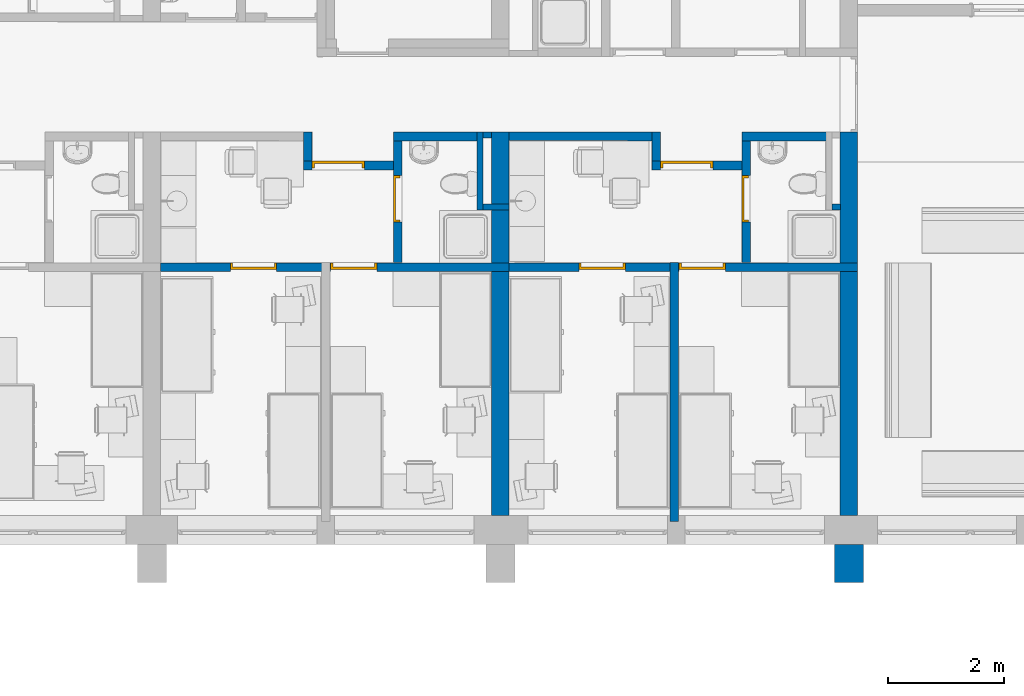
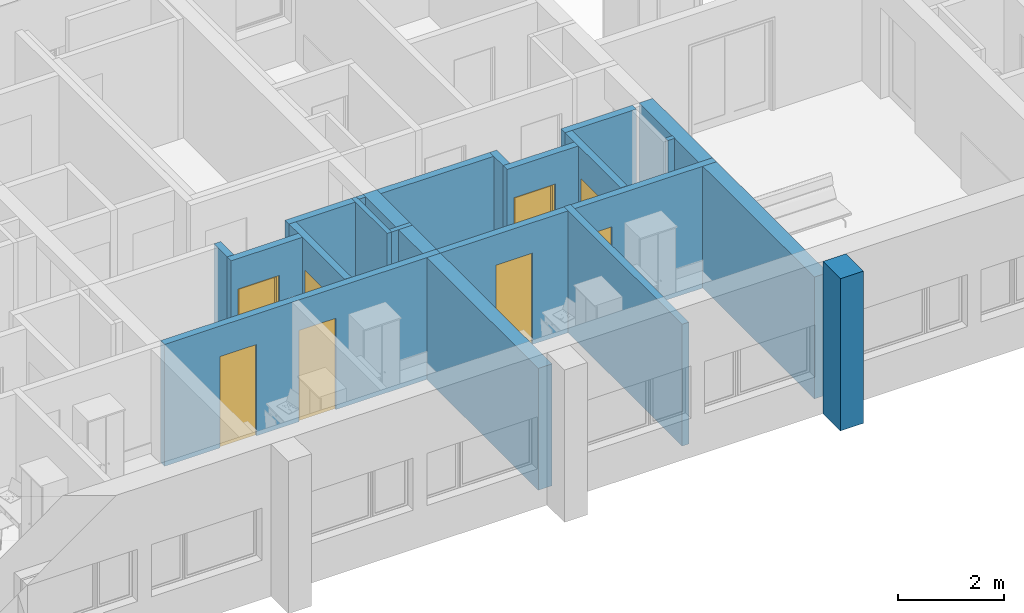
# One storey, part 12 of 152: 19 walls, 8 doors, 8 openings.
"""IFC2X3 building model written with IfcOpenShell, lengths in millimetres."""

from ifc_helpers import new_model, entity, si_unit, converted_unit, money_unit, direction, frame, origin_with_axes, place, context, subcontext, project, spatial, polyline, outline, extrude, faceted_brep, source, transform, mapped, material, material_list, layer, layer_set, layer_usage, type_object, element, fill, save


model = new_model("IFC2X3")

# Units and contexts
model_context = context("Model", 3, precision=1e-05, world=origin_with_axes(), true_north=direction((0.0, 1.0)))
body_context = subcontext(model_context, "Body", "Model", "MODEL_VIEW")
ifc_project = project(units=[si_unit("LENGTHUNIT", "METRE", prefix="MILLI"), si_unit("AREAUNIT", "SQUARE_METRE"), si_unit("VOLUMEUNIT", "CUBIC_METRE"), converted_unit("PLANEANGLEUNIT", "DEGREE", entity("IfcPlaneAngleMeasure", 0.0174532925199), si_unit("PLANEANGLEUNIT", "RADIAN"), dimensions=[0, 0, 0, 0, 0, 0, 0]), si_unit("SOLIDANGLEUNIT", "STERADIAN"), money_unit("USD"), converted_unit("TIMEUNIT", "Year", entity("IfcTimeMeasure", 31556926.0), si_unit("TIMEUNIT", "SECOND"), dimensions=[0, 0, 0, 0, 0, 0, 0]), si_unit("MASSUNIT", "GRAM"), si_unit("THERMODYNAMICTEMPERATUREUNIT", "DEGREE_CELSIUS"), si_unit("LUMINOUSINTENSITYUNIT", "LUMEN")], contexts=[model_context])

# Site, building, storey
site_placement = place(None, origin_with_axes())
site = spatial("IfcSite", under=ifc_project, at=site_placement, Name="Site", CompositionType="ELEMENT")
building_placement = place(site_placement, origin_with_axes())
building = spatial("IfcBuilding", under=site, at=building_placement, Name="Building", CompositionType="ELEMENT")
storey_placement = place(building_placement, frame((0.0, 0.0, 9500.0), z_axis=(0.0, 0.0, 1.0), x_axis=(1.0, 0.0, 0.0)))
storey = spatial("IfcBuildingStorey", under=building, at=storey_placement, Name="5KORRUS", CompositionType="ELEMENT", Elevation=9500.0)

# Walls
ifc_material_1 = material(Name="Olemasolevad seinad tellis, uus viimistlus")
ifc_layer_1 = layer(ifc_material_1, 500.0, ventilated="UNKNOWN")
ifc_layer_set_1 = layer_set([ifc_layer_1], Name="Olemasolevad seinad tellis, uus viimistlus 500")
ifc_layer_usage_1 = layer_usage(ifc_layer_set_1, "AXIS2", "POSITIVE", -100.0)
wall_type_1 = type_object("IfcWallType", Name="Olemasolevad seinad tellis, uus viimistlus 500", PredefinedType="NOTDEFINED")
wall_1_placement = place(storey_placement, frame((-11990.2967033, -20796.6419407, 0.0), z_axis=(0.0, 0.0, 1.0), x_axis=(0.0, 1.0, 0.0)))
element("IfcWallStandardCase", 1, at=wall_1_placement, inside=storey, type_object=wall_type_1, material=ifc_layer_usage_1, Name="VS1", ObjectType="VS1", context=body_context, shape_type="SweptSolid", body=[
    extrude(outline(polyline([(0.0, -100.0), (657.402041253, -100.0), (657.402041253, 400.0), (0.0, 400.0), (0.0, -100.0)])), origin_with_axes(), (0.0, 0.0, 1.0), 3500.0),
])
ifc_material_2 = material(Name="UmbKipsplaat")
ifc_layer_2 = layer(ifc_material_2, 13.0, ventilated="UNKNOWN")
ifc_layer_3 = layer(ifc_material_2, 13.0, ventilated="UNKNOWN")
ifc_material_3 = material(Name="SOOJUSTUS MINERAALVILL")
ifc_layer_4 = layer(ifc_material_3, 98.0, ventilated="UNKNOWN")
ifc_layer_5 = layer(ifc_material_2, 13.0, ventilated="UNKNOWN")
ifc_layer_6 = layer(ifc_material_2, 13.0, ventilated="UNKNOWN")
ifc_layer_set_2 = layer_set([ifc_layer_2, ifc_layer_3, ifc_layer_4, ifc_layer_5, ifc_layer_6], Name="kipssein150")
ifc_layer_usage_2 = layer_usage(ifc_layer_set_2, "AXIS2", "POSITIVE", -150.0)
wall_type_2 = type_object("IfcWallType", Name="kipssein150 150", PredefinedType="NOTDEFINED")
wall_2_placement = place(storey_placement, frame((-13984.201689, -13039.3705726, 0.0), z_axis=(0.0, 0.0, 1.0), x_axis=(1.0, 0.0, 0.0)))
element("IfcWallStandardCase", 2, at=wall_2_placement, inside=storey, type_object=wall_type_2, material=ifc_layer_usage_2, Name="SS1", ObjectType="SS1", context=body_context, shape_type="SweptSolid", body=[
    extrude(outline(polyline([(0.0, -150.0), (1550.19338105, -150.0), (1550.19338105, 0.0), (0.0, 0.0), (0.0, -150.0)])), origin_with_axes(), (0.0, 0.0, 1.0), 2800.0),
])

# Wall, opening, door
ifc_layer_usage_3 = layer_usage(ifc_layer_set_2, "AXIS2", "POSITIVE", 0.0)
wall_3_placement = place(storey_placement, frame((-13984.201689, -13539.4524083, 0.0), z_axis=(0.0, 0.0, 1.0), x_axis=(-1.0, 0.0, 0.0)))
wall_3 = element("IfcWallStandardCase", 3, at=wall_3_placement, inside=storey, type_object=wall_type_2, material=ifc_layer_usage_3, Name="SS1", ObjectType="SS1", context=body_context, shape_type="SweptSolid", body=[
    extrude(outline(polyline([(0.0, 0.0), (1549.66067938, 0.0), (1549.66067938, 150.0), (0.0, 150.0), (0.0, 0.0)])), origin_with_axes(), (0.0, 0.0, 1.0), 2800.0),
])
opening_1_placement = place(wall_3_placement, frame((949.660679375, 0.0, 0.0), z_axis=(0.0, 0.0, 1.0), x_axis=(1.0, 0.0, 0.0)))
opening_1 = element("IfcOpeningElement", 4, at=opening_1_placement, cuts=wall_3, Name="SU2-6", context=body_context, shape_type="SweptSolid", body=[
    extrude(outline(polyline([(-450.0, -2100.0), (450.0, -2100.0), (450.0, 0.0), (-450.0, 0.0), (-450.0, -2100.0)])), frame((0.0, 150.0, 0.0), z_axis=(0.0, 1.0, 0.0), x_axis=(1.0, 0.0, 0.0)), (0.0, 0.0, -1.0), 450.0),
])
ifc_material_4 = material(Name="Background")
ifc_material_list = material_list([ifc_material_4])
door_style_1 = type_object("IfcDoorStyle", Name="Door 19", ConstructionType="NOTDEFINED", OperationType="SINGLE_SWING_LEFT", ParameterTakesPrecedence=False, Sizeable=False)
shared_shape_1 = source(origin_with_axes(), body_context, "Body", "Brep", [
    faceted_brep([(410.0, -40.0, 0.0), (410.0, -115.0, 0.0), (410.0, -115.0, 2060.0), (410.0, -40.0, 2060.0), (422.0, -40.0, 0.0), (422.0, 0.0, 0.0), (450.0, 0.0, 0.0), (450.0, -115.0, 0.0), (450.0, -115.0, 2060.0), (422.0, -40.0, 2060.0), (450.0, 0.0, 2060.0), (422.0, 0.0, 2060.0)], [[[0, 1, 2, 3]], [[4, 5, 6, 7, 1, 0]], [[2, 1, 7, 8]], [[9, 3, 2, 8, 10, 11]], [[9, 4, 0, 3]], [[11, 5, 4, 9]], [[11, 10, 6, 5]], [[7, 6, 10, 8]]]),
    faceted_brep([(-422.0, -40.0, 2060.0), (-422.0, 0.0, 2060.0), (-450.0, 0.0, 2060.0), (-450.0, -115.0, 2060.0), (-410.0, -115.0, 2060.0), (-410.0, -40.0, 2060.0), (-422.0, -40.0, 0.0), (-422.0, 0.0, 0.0), (-450.0, 0.0, 0.0), (-450.0, -115.0, 0.0), (-410.0, -115.0, 0.0), (-410.0, -40.0, 0.0)], [[[0, 1, 2, 3, 4, 5]], [[0, 6, 7, 1]], [[7, 8, 2, 1]], [[3, 2, 8, 9]], [[4, 3, 9, 10]], [[5, 4, 10, 11]], [[5, 11, 6, 0]], [[6, 11, 10, 9, 8, 7]]]),
    faceted_brep([(422.0, 0.0, 2072.0), (-422.0, 0.0, 2072.0), (-422.0, 0.0, 2060.0), (-450.0, 0.0, 2060.0), (-450.0, 0.0, 2100.0), (450.0, 0.0, 2100.0), (450.0, 0.0, 2060.0), (422.0, 0.0, 2060.0), (422.0, -40.0, 2072.0), (-422.0, -40.0, 2072.0), (-422.0, -40.0, 2060.0), (-410.0, -40.0, 2060.0), (-410.0, -115.0, 2060.0), (-450.0, -115.0, 2060.0), (-450.0, -115.0, 2100.0), (450.0, -115.0, 2100.0), (450.0, -115.0, 2060.0), (422.0, -40.0, 2060.0), (410.0, -115.0, 2060.0), (410.0, -40.0, 2060.0)], [[[0, 1, 2, 3, 4, 5, 6, 7]], [[0, 8, 9, 1]], [[1, 9, 10, 2]], [[10, 11, 12, 13, 3, 2]], [[14, 4, 3, 13]], [[15, 5, 4, 14]], [[16, 6, 5, 15]], [[17, 7, 6, 16, 18, 19]], [[7, 17, 8, 0]], [[10, 9, 8, 17, 19, 11]], [[19, 18, 12, 11]], [[13, 12, 18, 16, 15, 14]]]),
    faceted_brep([(-422.0, 0.0, 0.0), (422.0, 0.0, 0.0), (422.0, -40.0, 0.0), (-422.0, -40.0, 0.0), (-422.0, 0.0, 2072.0), (422.0, 0.0, 2072.0), (422.0, -40.0, 2072.0), (-422.0, -40.0, 2072.0)], [[[0, 1, 2, 3]], [[0, 4, 5, 1]], [[1, 5, 6, 2]], [[3, 2, 6, 7]], [[4, 0, 3, 7]], [[5, 4, 7, 6]]]),
])
door_1_placement = place(opening_1_placement, frame((450.0, 0.0, 0.0), z_axis=(0.0, 0.0, 1.0), x_axis=(-1.0, 0.0, 0.0)))
door_1 = element("IfcDoor", 5, at=door_1_placement, inside=storey, type_object=door_style_1, material=ifc_material_list, Name="SU2-6", ObjectType="Korteri välisuks", OverallHeight=2100.0, OverallWidth=900.0, context=body_context, shape_type="MappedRepresentation", body=[
    mapped(shared_shape_1, transform((450.0, 0.0, 0.0))),
])
fill(opening_1, door_1)

ifc_layer_usage_4 = layer_usage(ifc_layer_set_2, "AXIS2", "POSITIVE", -150.0)
wall_4_placement = place(storey_placement, frame((-13984.201689, -15280.4716262, 0.0), z_axis=(0.0, 0.0, 1.0), x_axis=(0.0, 1.0, 0.0)))
wall_4 = element("IfcWallStandardCase", 6, at=wall_4_placement, inside=storey, type_object=wall_type_2, material=ifc_layer_usage_4, Name="SS1", ObjectType="SS1", context=body_context, shape_type="SweptSolid", body=[
    extrude(outline(polyline([(0.0, -150.0), (2241.10105359, -150.0), (2241.10105359, 0.0), (0.0, 0.0), (0.0, -150.0)])), origin_with_axes(), (0.0, 0.0, 1.0), 2800.0),
])
opening_2_placement = place(wall_4_placement, frame((1091.01921788, 0.0, 0.0), z_axis=(0.0, 0.0, 1.0), x_axis=(1.0, 0.0, 0.0)))
opening_2 = element("IfcOpeningElement", 7, at=opening_2_placement, cuts=wall_4, Name="SU3-2", context=body_context, shape_type="SweptSolid", body=[
    extrude(outline(polyline([(-400.0, -2100.0), (400.0, -2100.0), (400.0, 0.0), (-400.0, 0.0), (-400.0, -2100.0)])), frame((0.0, -150.0, 0.0), z_axis=(0.0, 1.0, 0.0), x_axis=(1.0, 0.0, 0.0)), (0.0, 0.0, 1.0), 450.0),
])
door_style_2 = type_object("IfcDoorStyle", Name="Door 19", ConstructionType="NOTDEFINED", OperationType="SINGLE_SWING_RIGHT", ParameterTakesPrecedence=False, Sizeable=False)
shared_shape_2 = source(origin_with_axes(), body_context, "Body", "Brep", [
    faceted_brep([(-360.0, -40.0, 0.0), (-360.0, -40.0, 2060.0), (-360.0, -115.0, 2060.0), (-360.0, -115.0, 0.0), (-372.0, -40.0, 2060.0), (-372.0, -40.0, 0.0), (-372.0, 0.0, 2060.0), (-400.0, 0.0, 2060.0), (-400.0, -115.0, 2060.0), (-400.0, -115.0, 0.0), (-400.0, 0.0, 0.0), (-372.0, 0.0, 0.0)], [[[0, 1, 2, 3]], [[4, 1, 0, 5]], [[4, 6, 7, 8, 2, 1]], [[2, 8, 9, 3]], [[5, 0, 3, 9, 10, 11]], [[6, 4, 5, 11]], [[6, 11, 10, 7]], [[9, 8, 7, 10]]]),
    faceted_brep([(372.0, -40.0, 2060.0), (360.0, -40.0, 2060.0), (360.0, -115.0, 2060.0), (400.0, -115.0, 2060.0), (400.0, 0.0, 2060.0), (372.0, 0.0, 2060.0), (372.0, -40.0, 0.0), (360.0, -40.0, 0.0), (360.0, -115.0, 0.0), (400.0, -115.0, 0.0), (400.0, 0.0, 0.0), (372.0, 0.0, 0.0)], [[[0, 1, 2, 3, 4, 5]], [[1, 0, 6, 7]], [[1, 7, 8, 2]], [[2, 8, 9, 3]], [[3, 9, 10, 4]], [[11, 5, 4, 10]], [[0, 5, 11, 6]], [[6, 11, 10, 9, 8, 7]]]),
    faceted_brep([(-372.0, 0.0, 2072.0), (-372.0, 0.0, 2060.0), (-400.0, 0.0, 2060.0), (-400.0, 0.0, 2100.0), (400.0, 0.0, 2100.0), (400.0, 0.0, 2060.0), (372.0, 0.0, 2060.0), (372.0, 0.0, 2072.0), (-372.0, -40.0, 2072.0), (-372.0, -40.0, 2060.0), (-360.0, -40.0, 2060.0), (-360.0, -115.0, 2060.0), (-400.0, -115.0, 2060.0), (-400.0, -115.0, 2100.0), (400.0, -115.0, 2100.0), (400.0, -115.0, 2060.0), (372.0, -40.0, 2060.0), (360.0, -115.0, 2060.0), (360.0, -40.0, 2060.0), (372.0, -40.0, 2072.0)], [[[0, 1, 2, 3, 4, 5, 6, 7]], [[1, 0, 8, 9]], [[9, 10, 11, 12, 2, 1]], [[12, 13, 3, 2]], [[13, 14, 4, 3]], [[14, 15, 5, 4]], [[16, 6, 5, 15, 17, 18]], [[7, 6, 16, 19]], [[0, 7, 19, 8]], [[16, 18, 10, 9, 8, 19]], [[10, 18, 17, 11]], [[15, 14, 13, 12, 11, 17]]]),
    faceted_brep([(372.0, 0.0, 0.0), (372.0, -40.0, 0.0), (-372.0, -40.0, 0.0), (-372.0, 0.0, 0.0), (372.0, 0.0, 2072.0), (372.0, -40.0, 2072.0), (-372.0, -40.0, 2072.0), (-372.0, 0.0, 2072.0)], [[[0, 1, 2, 3]], [[4, 5, 1, 0]], [[1, 5, 6, 2]], [[3, 2, 6, 7]], [[0, 3, 7, 4]], [[7, 6, 5, 4]]]),
])
door_2_placement = place(opening_2_placement, frame((-400.0, 0.0, 0.0), z_axis=(0.0, 0.0, 1.0), x_axis=(1.0, 0.0, 0.0)))
door_2 = element("IfcDoor", 8, at=door_2_placement, inside=storey, type_object=door_style_2, material=ifc_material_list, Name="SU3-2", ObjectType="WC-uks", OverallHeight=2100.0, OverallWidth=800.0, context=body_context, shape_type="MappedRepresentation", body=[
    mapped(shared_shape_2, transform((400.0, 0.0, 0.0))),
])
fill(opening_2, door_2)

# Walls
ifc_layer_usage_5 = layer_usage(ifc_layer_set_2, "AXIS2", "POSITIVE", 0.0)
wall_5_placement = place(storey_placement, frame((-15533.8623684, -13039.2398994, 0.0), z_axis=(0.0, 0.0, 1.0), x_axis=(-0.999999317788, 0.00116808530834, 0.0)))
element("IfcWallStandardCase", 9, at=wall_5_placement, inside=storey, type_object=wall_type_2, material=ifc_layer_usage_5, Name="SS1", ObjectType="SS1", context=body_context, shape_type="SweptSolid", body=[
    extrude(outline(polyline([(0.0, 0.0), (2456.43601074, 0.0), (2456.43601074, 150.0), (0.0, 150.0), (0.0, 0.0)])), origin_with_axes(), (0.0, 0.0, 1.0), 2800.0),
])
ifc_layer_usage_6 = layer_usage(ifc_layer_set_2, "AXIS2", "POSITIVE", 0.0)
wall_6_placement = place(storey_placement, frame((-15533.8623684, -13039.2398994, 0.0), z_axis=(0.0, 0.0, 1.0), x_axis=(0.0, -1.0, 0.0)))
element("IfcWallStandardCase", 10, at=wall_6_placement, inside=storey, type_object=wall_type_2, material=ifc_layer_usage_6, Name="SS1", ObjectType="SS1", context=body_context, shape_type="SweptSolid", body=[
    extrude(outline(polyline([(0.0, 0.0), (500.212508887, 0.0), (500.212508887, 150.0), (0.0, 150.0), (0.0, 0.0)])), origin_with_axes(), (0.0, 0.0, 1.0), 2800.0),
])
ifc_layer_usage_7 = layer_usage(ifc_layer_set_2, "AXIS2", "POSITIVE", 0.0)
wall_7_placement = place(storey_placement, frame((-15070.2967033, -19739.2398994, 0.0), z_axis=(0.0, 0.0, 1.0), x_axis=(0.0, 1.0, 0.0)))
element("IfcWallStandardCase", 11, at=wall_7_placement, inside=storey, type_object=wall_type_2, material=ifc_layer_usage_7, Name="SS1", ObjectType="SS1", context=body_context, shape_type="SweptSolid", body=[
    extrude(outline(polyline([(0.0, 0.0), (4458.76827323, 0.0), (4458.76827323, 150.0), (0.0, 150.0), (0.0, 0.0)])), origin_with_axes(), (0.0, 0.0, 1.0), 2800.0),
])
ifc_layer_usage_8 = layer_usage(ifc_layer_set_2, "AXIS2", "POSITIVE", -150.0)
wall_8_placement = place(storey_placement, frame((-19984.201689, -13039.3705726, 0.0), z_axis=(0.0, 0.0, 1.0), x_axis=(1.0, 0.0, 0.0)))
element("IfcWallStandardCase", 12, at=wall_8_placement, inside=storey, type_object=wall_type_2, material=ifc_layer_usage_8, Name="SS1", ObjectType="SS1", context=body_context, shape_type="SweptSolid", body=[
    extrude(outline(polyline([(0.0, -150.0), (1451.10685968, -150.0), (1451.10685968, 0.0), (0.0, 0.0), (0.0, -150.0)])), origin_with_axes(), (0.0, 0.0, 1.0), 2800.0),
])
ifc_layer_usage_9 = layer_usage(ifc_layer_set_2, "AXIS2", "POSITIVE", 0.0)
wall_9_placement = place(storey_placement, frame((-21533.8623684, -13039.2398994, 0.0), z_axis=(0.0, 0.0, 1.0), x_axis=(0.0, -1.0, 0.0)))
element("IfcWallStandardCase", 13, at=wall_9_placement, inside=storey, type_object=wall_type_2, material=ifc_layer_usage_9, Name="SS1", ObjectType="SS1", context=body_context, shape_type="SweptSolid", body=[
    extrude(outline(polyline([(0.0, 0.0), (500.212508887, 0.0), (500.212508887, 150.0), (0.0, 150.0), (0.0, 0.0)])), origin_with_axes(), (0.0, 0.0, 1.0), 2800.0),
])

# Wall, openings, doors
ifc_layer_usage_10 = layer_usage(ifc_layer_set_2, "AXIS2", "POSITIVE", -150.0)
wall_10_placement = place(storey_placement, frame((-11990.2967033, -15439.2398994, 0.0), z_axis=(0.0, 0.0, 1.0), x_axis=(-1.0, 0.0, 0.0)))
wall_10 = element("IfcWallStandardCase", 14, at=wall_10_placement, inside=storey, type_object=wall_type_2, material=ifc_layer_usage_10, Name="SS1", ObjectType="SS1", context=body_context, shape_type="SweptSolid", body=[
    extrude(outline(polyline([(0.0, -150.0), (6000.0, -150.0), (6000.0, 0.0), (0.0, 0.0), (0.0, -150.0)])), origin_with_axes(), (0.0, 0.0, 1.0), 2800.0),
])
opening_3_placement = place(wall_10_placement, frame((4400.0, 0.0, 0.0), z_axis=(0.0, 0.0, 1.0), x_axis=(1.0, 0.0, 0.0)))
opening_3 = element("IfcOpeningElement", 15, at=opening_3_placement, cuts=wall_10, Name="SU3-5", context=body_context, shape_type="SweptSolid", body=[
    extrude(outline(polyline([(-400.0, 0.0), (400.0, 0.0), (400.0, 2100.0), (-400.0, 2100.0), (-400.0, 0.0)])), frame((0.0, 150.0, 0.0), z_axis=(0.0, 1.0, 0.0), x_axis=(-1.0, 0.0, 0.0)), (0.0, 0.0, -1.0), 450.0),
])
opening_4_placement = place(wall_10_placement, frame((2675.0, 0.0, 0.0), z_axis=(0.0, 0.0, 1.0), x_axis=(1.0, 0.0, 0.0)))
opening_4 = element("IfcOpeningElement", 16, at=opening_4_placement, cuts=wall_10, Name="SU3-4", context=body_context, shape_type="SweptSolid", body=[
    extrude(outline(polyline([(-400.0, 0.0), (400.0, 0.0), (400.0, 2100.0), (-400.0, 2100.0), (-400.0, 0.0)])), frame((0.0, 150.0, 0.0), z_axis=(0.0, -1.0, 0.0), x_axis=(1.0, 0.0, 0.0)), (0.0, 0.0, 1.0), 450.0),
])
door_style_3 = type_object("IfcDoorStyle", Name="Door 19", ConstructionType="NOTDEFINED", OperationType="SINGLE_SWING_LEFT", ParameterTakesPrecedence=False, Sizeable=False)
shared_shape_3 = source(origin_with_axes(), body_context, "Body", "Brep", [
    faceted_brep([(360.0, -75.0, 0.0), (360.0, -150.0, 0.0), (360.0, -150.0, 2060.0), (360.0, -75.0, 2060.0), (372.0, -75.0, 0.0), (372.0, -35.0, 0.0), (400.0, -35.0, 0.0), (400.0, -150.0, 0.0), (400.0, -150.0, 2060.0), (372.0, -75.0, 2060.0), (400.0, -35.0, 2060.0), (372.0, -35.0, 2060.0)], [[[0, 1, 2, 3]], [[4, 5, 6, 7, 1, 0]], [[2, 1, 7, 8]], [[9, 3, 2, 8, 10, 11]], [[9, 4, 0, 3]], [[11, 5, 4, 9]], [[11, 10, 6, 5]], [[7, 6, 10, 8]]]),
    faceted_brep([(-372.0, -75.0, 2060.0), (-372.0, -35.0, 2060.0), (-400.0, -35.0, 2060.0), (-400.0, -150.0, 2060.0), (-360.0, -150.0, 2060.0), (-360.0, -75.0, 2060.0), (-372.0, -75.0, 0.0), (-372.0, -35.0, 0.0), (-400.0, -35.0, 0.0), (-400.0, -150.0, 0.0), (-360.0, -150.0, 0.0), (-360.0, -75.0, 0.0)], [[[0, 1, 2, 3, 4, 5]], [[0, 6, 7, 1]], [[7, 8, 2, 1]], [[3, 2, 8, 9]], [[4, 3, 9, 10]], [[5, 4, 10, 11]], [[5, 11, 6, 0]], [[6, 11, 10, 9, 8, 7]]]),
    faceted_brep([(372.0, -35.0, 2072.0), (-372.0, -35.0, 2072.0), (-372.0, -35.0, 2060.0), (-400.0, -35.0, 2060.0), (-400.0, -35.0, 2100.0), (400.0, -35.0, 2100.0), (400.0, -35.0, 2060.0), (372.0, -35.0, 2060.0), (372.0, -75.0, 2072.0), (-372.0, -75.0, 2072.0), (-372.0, -75.0, 2060.0), (-360.0, -75.0, 2060.0), (-360.0, -150.0, 2060.0), (-400.0, -150.0, 2060.0), (-400.0, -150.0, 2100.0), (400.0, -150.0, 2100.0), (400.0, -150.0, 2060.0), (372.0, -75.0, 2060.0), (360.0, -150.0, 2060.0), (360.0, -75.0, 2060.0)], [[[0, 1, 2, 3, 4, 5, 6, 7]], [[0, 8, 9, 1]], [[1, 9, 10, 2]], [[10, 11, 12, 13, 3, 2]], [[14, 4, 3, 13]], [[15, 5, 4, 14]], [[16, 6, 5, 15]], [[17, 7, 6, 16, 18, 19]], [[7, 17, 8, 0]], [[10, 9, 8, 17, 19, 11]], [[19, 18, 12, 11]], [[13, 12, 18, 16, 15, 14]]]),
    faceted_brep([(-372.0, -35.0, 0.0), (372.0, -35.0, 0.0), (372.0, -75.0, 0.0), (-372.0, -75.0, 0.0), (-372.0, -35.0, 2072.0), (372.0, -35.0, 2072.0), (372.0, -75.0, 2072.0), (-372.0, -75.0, 2072.0)], [[[0, 1, 2, 3]], [[0, 4, 5, 1]], [[1, 5, 6, 2]], [[3, 2, 6, 7]], [[4, 0, 3, 7]], [[5, 4, 7, 6]]]),
])
door_3_placement = place(opening_3_placement, frame((-400.0, 0.0, 0.0), z_axis=(0.0, 0.0, 1.0), x_axis=(1.0, 0.0, 0.0)))
door_3 = element("IfcDoor", 17, at=door_3_placement, inside=storey, type_object=door_style_3, material=ifc_material_list, Name="SU3-5", ObjectType="Toa uks", OverallHeight=2100.0, OverallWidth=800.0, context=body_context, shape_type="MappedRepresentation", body=[
    mapped(shared_shape_3, transform((400.0, 0.0, 0.0))),
])
fill(opening_3, door_3)
door_style_4 = type_object("IfcDoorStyle", Name="Door 19", ConstructionType="NOTDEFINED", OperationType="SINGLE_SWING_RIGHT", ParameterTakesPrecedence=False, Sizeable=False)
shared_shape_4 = source(origin_with_axes(), body_context, "Body", "Brep", [
    faceted_brep([(-360.0, -75.0, 0.0), (-360.0, -75.0, 2060.0), (-360.0, -150.0, 2060.0), (-360.0, -150.0, 0.0), (-372.0, -75.0, 2060.0), (-372.0, -75.0, 0.0), (-372.0, -35.0, 2060.0), (-400.0, -35.0, 2060.0), (-400.0, -150.0, 2060.0), (-400.0, -150.0, 0.0), (-400.0, -35.0, 0.0), (-372.0, -35.0, 0.0)], [[[0, 1, 2, 3]], [[4, 1, 0, 5]], [[4, 6, 7, 8, 2, 1]], [[2, 8, 9, 3]], [[5, 0, 3, 9, 10, 11]], [[6, 4, 5, 11]], [[6, 11, 10, 7]], [[9, 8, 7, 10]]]),
    faceted_brep([(372.0, -75.0, 2060.0), (360.0, -75.0, 2060.0), (360.0, -150.0, 2060.0), (400.0, -150.0, 2060.0), (400.0, -35.0, 2060.0), (372.0, -35.0, 2060.0), (372.0, -75.0, 0.0), (360.0, -75.0, 0.0), (360.0, -150.0, 0.0), (400.0, -150.0, 0.0), (400.0, -35.0, 0.0), (372.0, -35.0, 0.0)], [[[0, 1, 2, 3, 4, 5]], [[1, 0, 6, 7]], [[1, 7, 8, 2]], [[2, 8, 9, 3]], [[3, 9, 10, 4]], [[11, 5, 4, 10]], [[0, 5, 11, 6]], [[6, 11, 10, 9, 8, 7]]]),
    faceted_brep([(-372.0, -35.0, 2072.0), (-372.0, -35.0, 2060.0), (-400.0, -35.0, 2060.0), (-400.0, -35.0, 2100.0), (400.0, -35.0, 2100.0), (400.0, -35.0, 2060.0), (372.0, -35.0, 2060.0), (372.0, -35.0, 2072.0), (-372.0, -75.0, 2072.0), (-372.0, -75.0, 2060.0), (-360.0, -75.0, 2060.0), (-360.0, -150.0, 2060.0), (-400.0, -150.0, 2060.0), (-400.0, -150.0, 2100.0), (400.0, -150.0, 2100.0), (400.0, -150.0, 2060.0), (372.0, -75.0, 2060.0), (360.0, -150.0, 2060.0), (360.0, -75.0, 2060.0), (372.0, -75.0, 2072.0)], [[[0, 1, 2, 3, 4, 5, 6, 7]], [[1, 0, 8, 9]], [[9, 10, 11, 12, 2, 1]], [[12, 13, 3, 2]], [[13, 14, 4, 3]], [[14, 15, 5, 4]], [[16, 6, 5, 15, 17, 18]], [[7, 6, 16, 19]], [[0, 7, 19, 8]], [[16, 18, 10, 9, 8, 19]], [[10, 18, 17, 11]], [[15, 14, 13, 12, 11, 17]]]),
    faceted_brep([(372.0, -35.0, 0.0), (372.0, -75.0, 0.0), (-372.0, -75.0, 0.0), (-372.0, -35.0, 0.0), (372.0, -35.0, 2072.0), (372.0, -75.0, 2072.0), (-372.0, -75.0, 2072.0), (-372.0, -35.0, 2072.0)], [[[0, 1, 2, 3]], [[4, 5, 1, 0]], [[1, 5, 6, 2]], [[3, 2, 6, 7]], [[0, 3, 7, 4]], [[7, 6, 5, 4]]]),
])
door_4_placement = place(opening_4_placement, frame((-400.0, 0.0, 0.0), z_axis=(0.0, 0.0, 1.0), x_axis=(1.0, 0.0, 0.0)))
door_4 = element("IfcDoor", 18, at=door_4_placement, inside=storey, type_object=door_style_4, material=ifc_material_list, Name="SU3-4", ObjectType="Toa uks", OverallHeight=2100.0, OverallWidth=800.0, context=body_context, shape_type="MappedRepresentation", body=[
    mapped(shared_shape_4, transform((400.0, 0.0, 0.0))),
])
fill(opening_4, door_4)

# Wall, opening, door
ifc_layer_usage_11 = layer_usage(ifc_layer_set_2, "AXIS2", "POSITIVE", 0.0)
wall_11_placement = place(storey_placement, frame((-19984.201689, -13539.4524083, 0.0), z_axis=(0.0, 0.0, 1.0), x_axis=(-1.0, 0.0, 0.0)))
wall_11 = element("IfcWallStandardCase", 19, at=wall_11_placement, inside=storey, type_object=wall_type_2, material=ifc_layer_usage_11, Name="SS1", ObjectType="SS1", context=body_context, shape_type="SweptSolid", body=[
    extrude(outline(polyline([(0.0, 0.0), (1549.66067938, 0.0), (1549.66067938, 150.0), (0.0, 150.0), (0.0, 0.0)])), origin_with_axes(), (0.0, 0.0, 1.0), 2800.0),
])
opening_5_placement = place(wall_11_placement, frame((949.660679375, 0.0, 0.0), z_axis=(0.0, 0.0, 1.0), x_axis=(1.0, 0.0, 0.0)))
opening_5 = element("IfcOpeningElement", 20, at=opening_5_placement, cuts=wall_11, Name="SU2-6", context=body_context, shape_type="SweptSolid", body=[
    extrude(outline(polyline([(-450.0, -2100.0), (450.0, -2100.0), (450.0, 0.0), (-450.0, 0.0), (-450.0, -2100.0)])), frame((0.0, 150.0, 0.0), z_axis=(0.0, 1.0, 0.0), x_axis=(1.0, 0.0, 0.0)), (0.0, 0.0, -1.0), 450.0),
])
door_5_placement = place(opening_5_placement, frame((450.0, 0.0, 0.0), z_axis=(0.0, 0.0, 1.0), x_axis=(-1.0, 0.0, 0.0)))
door_5 = element("IfcDoor", 21, at=door_5_placement, inside=storey, type_object=door_style_1, material=ifc_material_list, Name="SU2-6", ObjectType="Korteri välisuks", OverallHeight=2100.0, OverallWidth=900.0, context=body_context, shape_type="MappedRepresentation", body=[
    mapped(shared_shape_1, transform((450.0, 0.0, 0.0))),
])
fill(opening_5, door_5)

# Wall, openings, doors
ifc_layer_usage_12 = layer_usage(ifc_layer_set_2, "AXIS2", "POSITIVE", -150.0)
wall_12_placement = place(storey_placement, frame((-17990.2967033, -15439.2398994, 0.0), z_axis=(0.0, 0.0, 1.0), x_axis=(-1.0, 0.0, 0.0)))
wall_12 = element("IfcWallStandardCase", 22, at=wall_12_placement, inside=storey, type_object=wall_type_2, material=ifc_layer_usage_12, Name="SS1", ObjectType="SS1", context=body_context, shape_type="SweptSolid", body=[
    extrude(outline(polyline([(0.0, -150.0), (6000.0, -150.0), (6000.0, 0.0), (0.0, 0.0), (0.0, -150.0)])), origin_with_axes(), (0.0, 0.0, 1.0), 2800.0),
])
opening_6_placement = place(wall_12_placement, frame((4400.0, 0.0, 0.0), z_axis=(0.0, 0.0, 1.0), x_axis=(1.0, 0.0, 0.0)))
opening_6 = element("IfcOpeningElement", 23, at=opening_6_placement, cuts=wall_12, Name="SU3-5", context=body_context, shape_type="SweptSolid", body=[
    extrude(outline(polyline([(-400.0, 0.0), (400.0, 0.0), (400.0, 2100.0), (-400.0, 2100.0), (-400.0, 0.0)])), frame((0.0, 150.0, 0.0), z_axis=(0.0, 1.0, 0.0), x_axis=(-1.0, 0.0, 0.0)), (0.0, 0.0, -1.0), 450.0),
])
opening_7_placement = place(wall_12_placement, frame((2675.0, 0.0, 0.0), z_axis=(0.0, 0.0, 1.0), x_axis=(1.0, 0.0, 0.0)))
opening_7 = element("IfcOpeningElement", 24, at=opening_7_placement, cuts=wall_12, Name="SU3-4", context=body_context, shape_type="SweptSolid", body=[
    extrude(outline(polyline([(-400.0, 0.0), (400.0, 0.0), (400.0, 2100.0), (-400.0, 2100.0), (-400.0, 0.0)])), frame((0.0, 150.0, 0.0), z_axis=(0.0, -1.0, 0.0), x_axis=(1.0, 0.0, 0.0)), (0.0, 0.0, 1.0), 450.0),
])
door_6_placement = place(opening_6_placement, frame((-400.0, 0.0, 0.0), z_axis=(0.0, 0.0, 1.0), x_axis=(1.0, 0.0, 0.0)))
door_6 = element("IfcDoor", 25, at=door_6_placement, inside=storey, type_object=door_style_3, material=ifc_material_list, Name="SU3-5", ObjectType="Toa uks", OverallHeight=2100.0, OverallWidth=800.0, context=body_context, shape_type="MappedRepresentation", body=[
    mapped(shared_shape_3, transform((400.0, 0.0, 0.0))),
])
fill(opening_6, door_6)
door_7_placement = place(opening_7_placement, frame((-400.0, 0.0, 0.0), z_axis=(0.0, 0.0, 1.0), x_axis=(1.0, 0.0, 0.0)))
door_7 = element("IfcDoor", 26, at=door_7_placement, inside=storey, type_object=door_style_4, material=ifc_material_list, Name="SU3-4", ObjectType="Toa uks", OverallHeight=2100.0, OverallWidth=800.0, context=body_context, shape_type="MappedRepresentation", body=[
    mapped(shared_shape_4, transform((400.0, 0.0, 0.0))),
])
fill(opening_7, door_7)

# Wall, opening, door
ifc_layer_usage_13 = layer_usage(ifc_layer_set_2, "AXIS2", "POSITIVE", -150.0)
wall_13_placement = place(storey_placement, frame((-19984.201689, -15280.4716262, 0.0), z_axis=(0.0, 0.0, 1.0), x_axis=(0.0, 1.0, 0.0)))
wall_13 = element("IfcWallStandardCase", 27, at=wall_13_placement, inside=storey, type_object=wall_type_2, material=ifc_layer_usage_13, Name="SS1", ObjectType="SS1", context=body_context, shape_type="SweptSolid", body=[
    extrude(outline(polyline([(0.0, -150.0), (2241.10105359, -150.0), (2241.10105359, 0.0), (0.0, 0.0), (0.0, -150.0)])), origin_with_axes(), (0.0, 0.0, 1.0), 2800.0),
])
opening_8_placement = place(wall_13_placement, frame((1091.01921788, 0.0, 0.0), z_axis=(0.0, 0.0, 1.0), x_axis=(1.0, 0.0, 0.0)))
opening_8 = element("IfcOpeningElement", 28, at=opening_8_placement, cuts=wall_13, Name="SU3-2", context=body_context, shape_type="SweptSolid", body=[
    extrude(outline(polyline([(-400.0, -2100.0), (400.0, -2100.0), (400.0, 0.0), (-400.0, 0.0), (-400.0, -2100.0)])), frame((0.0, -150.0, 0.0), z_axis=(0.0, 1.0, 0.0), x_axis=(1.0, 0.0, 0.0)), (0.0, 0.0, 1.0), 450.0),
])
door_style_5 = type_object("IfcDoorStyle", Name="Door 19", ConstructionType="NOTDEFINED", OperationType="SINGLE_SWING_RIGHT", ParameterTakesPrecedence=False, Sizeable=False)
door_8_placement = place(opening_8_placement, frame((-400.0, 0.0, 0.0), z_axis=(0.0, 0.0, 1.0), x_axis=(1.0, 0.0, 0.0)))
door_8 = element("IfcDoor", 29, at=door_8_placement, inside=storey, type_object=door_style_5, material=ifc_material_list, Name="SU3-2", ObjectType="WC-uks", OverallHeight=2100.0, OverallWidth=800.0, context=body_context, shape_type="MappedRepresentation", body=[
    mapped(shared_shape_2, transform((400.0, 0.0, 0.0))),
])
fill(opening_8, door_8)

# Walls
ifc_material_5 = material(Name="Olemasolevad seinad tellis, uus viimistlus")
ifc_layer_7 = layer(ifc_material_5, 300.0, ventilated="UNKNOWN")
ifc_layer_set_3 = layer_set([ifc_layer_7], Name="Olemasolevad seinad tellis, uus viimistlus  300")
ifc_layer_usage_14 = layer_usage(ifc_layer_set_3, "AXIS2", "POSITIVE", 0.0)
wall_type_3 = type_object("IfcWallType", Name="Olemasolevad seinad tellis, uus viimistlus  300", PredefinedType="NOTDEFINED")
wall_14_placement = place(storey_placement, frame((-11990.2967033, -19639.2398994, 0.0), z_axis=(0.0, 0.0, 1.0), x_axis=(0.0, 1.0, 0.0)))
element("IfcWallStandardCase", 30, at=wall_14_placement, inside=storey, type_object=wall_type_3, material=ifc_layer_usage_14, Name="KS1", ObjectType="KS1", context=body_context, shape_type="SweptSolid", body=[
    extrude(outline(polyline([(0.0, 0.0), (6600.0, 0.0), (6600.0, 300.0), (0.0, 300.0), (0.0, 0.0)])), origin_with_axes(), (0.0, 0.0, 1.0), 2800.0),
])
ifc_layer_usage_15 = layer_usage(ifc_layer_set_3, "AXIS2", "POSITIVE", 0.0)
wall_15_placement = place(storey_placement, frame((-17990.2967033, -19639.2398994, 0.0), z_axis=(0.0, 0.0, 1.0), x_axis=(0.0, 1.0, 0.0)))
element("IfcWallStandardCase", 31, at=wall_15_placement, inside=storey, type_object=wall_type_3, material=ifc_layer_usage_15, Name="KS1", ObjectType="KS1", context=body_context, shape_type="SweptSolid", body=[
    extrude(outline(polyline([(0.0, 0.0), (6602.86932682, 0.0), (6602.86932682, 300.0), (0.0, 300.0), (0.0, 0.0)])), origin_with_axes(), (0.0, 0.0, 1.0), 2800.0),
])
ifc_material_6 = material(Name="krohv")
ifc_layer_8 = layer(ifc_material_6, 2.0, ventilated="UNKNOWN")
ifc_layer_9 = layer(ifc_material_6, 10.0, ventilated="UNKNOWN")
ifc_material_7 = material(Name="Kergplokk")
ifc_layer_10 = layer(ifc_material_7, 76.0, ventilated="UNKNOWN")
ifc_layer_11 = layer(ifc_material_6, 10.0, ventilated="UNKNOWN")
ifc_layer_12 = layer(ifc_material_6, 2.0, ventilated="UNKNOWN")
ifc_layer_set_4 = layer_set([ifc_layer_8, ifc_layer_9, ifc_layer_10, ifc_layer_11, ifc_layer_12], Name="Kergplokk Bauroc 100")
ifc_layer_usage_16 = layer_usage(ifc_layer_set_4, "AXIS2", "POSITIVE", -100.0)
wall_type_4 = type_object("IfcWallType", Name="Kergplokk Bauroc 100 100", PredefinedType="NOTDEFINED")
wall_16_placement = place(storey_placement, frame((-18440.008308, -13039.3705726, 0.0), z_axis=(0.0, 0.0, 1.0), x_axis=(1.0, 0.0, 0.0)))
element("IfcWallStandardCase", 32, at=wall_16_placement, inside=storey, type_object=wall_type_4, material=ifc_layer_usage_16, Name="SS2", ObjectType="SS2", context=body_context, shape_type="SweptSolid", body=[
    extrude(outline(polyline([(0.0, -100.0), (149.711604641, -100.0), (149.711604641, 0.0), (0.0, 0.0), (0.0, -100.0)])), origin_with_axes(), (0.0, 0.0, 1.0), 2800.0),
])
ifc_layer_usage_17 = layer_usage(ifc_layer_set_4, "AXIS2", "POSITIVE", -100.0)
wall_17_placement = place(storey_placement, frame((-17990.2967033, -14380.4716262, 0.0), z_axis=(0.0, 0.0, 1.0), x_axis=(-1.0, 0.0, 0.0)))
element("IfcWallStandardCase", 33, at=wall_17_placement, inside=storey, type_object=wall_type_4, material=ifc_layer_usage_17, Name="SS2", ObjectType="SS2", context=body_context, shape_type="SweptSolid", body=[
    extrude(outline(polyline([(0.0, -100.0), (449.711604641, -100.0), (449.711604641, 0.0), (0.0, 0.0), (0.0, -100.0)])), origin_with_axes(), (0.0, 0.0, 1.0), 2800.0),
])
ifc_layer_usage_18 = layer_usage(ifc_layer_set_4, "AXIS2", "POSITIVE", -100.0)
wall_18_placement = place(storey_placement, frame((-12284.008308, -14380.4716262, 0.0), z_axis=(0.0, 0.0, 1.0), x_axis=(-1.0, 0.0, 0.0)))
element("IfcWallStandardCase", 34, at=wall_18_placement, inside=storey, type_object=wall_type_4, material=ifc_layer_usage_18, Name="SS2", ObjectType="SS2", context=body_context, shape_type="SweptSolid", body=[
    extrude(outline(polyline([(0.0, -100.0), (150.0, -100.0), (150.0, 0.0), (0.0, 0.0), (0.0, -100.0)])), origin_with_axes(), (0.0, 0.0, 1.0), 2800.0),
])
ifc_layer_usage_19 = layer_usage(ifc_layer_set_4, "AXIS2", "POSITIVE", -100.0)
wall_19_placement = place(storey_placement, frame((-18440.008308, -13039.3705726, 0.0), z_axis=(0.0, 0.0, 1.0), x_axis=(0.0, -1.0, 0.0)))
element("IfcWallStandardCase", 35, at=wall_19_placement, inside=storey, type_object=wall_type_4, material=ifc_layer_usage_19, Name="SS2", ObjectType="SS2", context=body_context, shape_type="SweptSolid", body=[
    extrude(outline(polyline([(0.0, -100.0), (1341.10105359, -100.0), (1341.10105359, 0.0), (0.0, 0.0), (0.0, -100.0)])), origin_with_axes(), (0.0, 0.0, 1.0), 2800.0),
])

save(model, "model.ifc")
